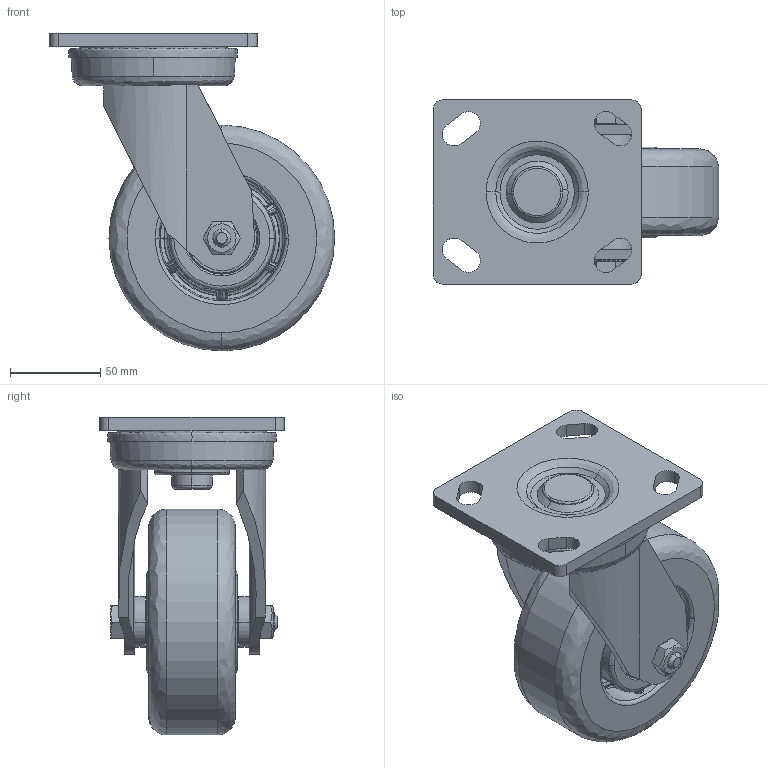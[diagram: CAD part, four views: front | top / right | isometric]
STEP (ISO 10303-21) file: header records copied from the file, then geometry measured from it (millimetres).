
FILE_DESCRIPTION (( 'STEP AP203' ), '1' );
FILE_NAME ('36A5寸万向（小底板）.STEP', '2026-03-13T01:23:02', ( 'MUSE' ), ( 'MUSE' ), 'SwSTEP 2.0', 'SolidWorks 2024', '' );
FILE_SCHEMA (( 'CONFIG_CONTROL_DESIGN' ));
Length unit declared in the file: millimetre
Products named in the file (1): 36A5寸万向（小底板）
Bounding box: 158 x 102 x 176 mm (x, y, z)
Volume: 765519.2 mm3; surface area: 163828 mm2
Topology: 1 solids, 5 shells, 1050 faces, 2655 edges, 1628 vertices
Faces by surface type: plane 402, cylinder 286, bspline 282, cone 80
Entity records: 42596 total; most frequent: CARTESIAN_POINT 18552, ORIENTED_EDGE 5308, DIRECTION 4810, EDGE_CURVE 2654, AXIS2_PLACEMENT_3D 1911, VERTEX_POINT 1628, CIRCLE 1142, EDGE_LOOP 1124
